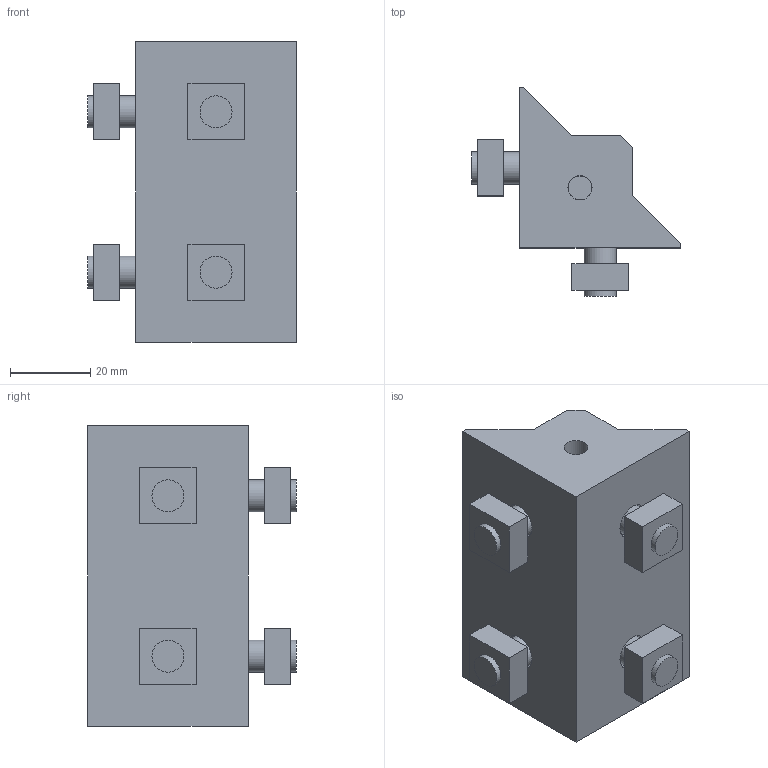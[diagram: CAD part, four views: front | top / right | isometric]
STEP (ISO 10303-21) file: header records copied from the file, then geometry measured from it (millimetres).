
FILE_DESCRIPTION((''),'2;1');
FILE_NAME('C:\Documents and Settings\AMS8\デスクトップ\2013from西村作業用\既存3D\M8ブラケット差分\ABLB-4075-8-T\ABLB-4075-8-T.stp','2013-08-07T17:50:44',('AMS8'),(''),'Autodesk Inventor 2008','Autodesk Inventor 2008','');
FILE_SCHEMA(('AUTOMOTIVE_DESIGN { 1 0 10303 214 1 1 1 1 }'));
Length unit declared in the file: millimetre
Products named in the file (10): ABLB-4075-8-T; ABLB-4075-8-T1; ABLB-4075-8-T2; ABLB-4075-8-T3; ABLB-4075-8-T4; ABLB-4075-8-T5; ABLB-4075-8-T6; ABLB-4075-8-T7; ABLB-4075-8-T8; ABLB-4075-8-T9
Assembly tree (9 placements, depth 2):
  ABLB-4075-8-T
    ABLB-4075-8-T1
    ABLB-4075-8-T2
    ABLB-4075-8-T3
    ABLB-4075-8-T4
    ABLB-4075-8-T5
    ABLB-4075-8-T6
    ABLB-4075-8-T7
    ABLB-4075-8-T8
    ABLB-4075-8-T9
Bounding box: 52 x 52 x 75 mm (x, y, z)
Volume: 68745.9 mm3; surface area: 22777.8 mm2
Topology: 9 solids, 9 shells, 87 faces, 189 edges, 123 vertices
Faces by surface type: plane 62, cylinder 25
Full cylindrical faces by diameter (mm): 6 x1, 8 x8, 9 x4, 13 x4, 14 x4
Entity records: 2692 total; most frequent: CARTESIAN_POINT 543, DIRECTION 421, ORIENTED_EDGE 328, EDGE_CURVE 164, AXIS2_PLACEMENT_3D 159, EDGE_LOOP 130, VERTEX_POINT 120, VECTOR 103
